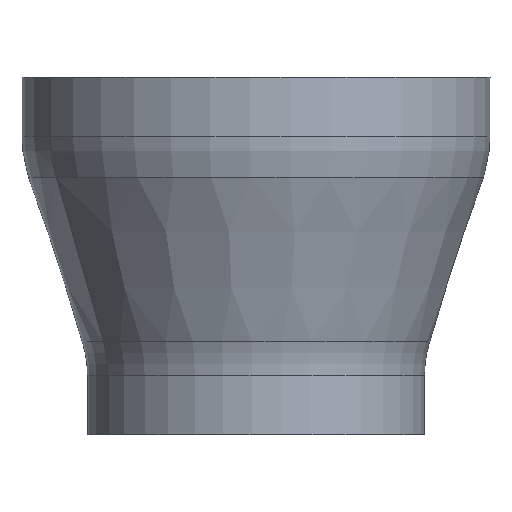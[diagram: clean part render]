
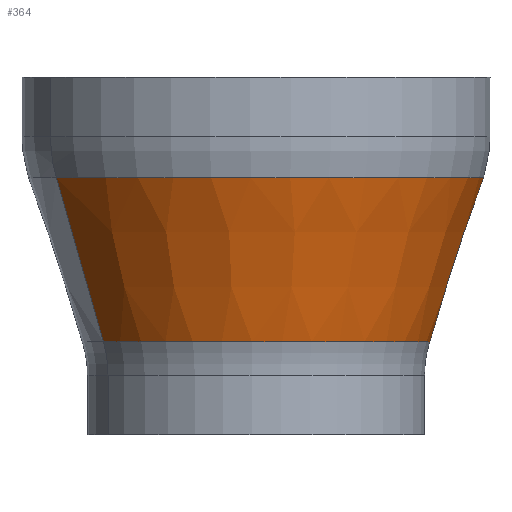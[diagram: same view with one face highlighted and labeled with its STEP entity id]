
A CAD part, left-side view. The second image highlights one B-rep face of the part: STEP entity #364.
In plain terms, the highlighted conical face has half-angle 18.116 degrees and reference radius 43.838 mm.
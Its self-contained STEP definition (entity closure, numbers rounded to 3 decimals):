
#167=CARTESIAN_POINT('Vertex',(1052.826,-586.642,325.634)) ;
#174=CARTESIAN_POINT('Vertex',(997.822,-485.958,325.634)) ;
#247=CARTESIAN_POINT('Axis2P3D Location',(1025.324,-536.3,325.634)) ;
#264=CARTESIAN_POINT('Line Origine',(75571.675,-136992.481,475432.367)) ;
#268=CARTESIAN_POINT('Vertex',(1046.341,-574.772,284.291)) ;
#275=CARTESIAN_POINT('Vertex',(1004.307,-497.828,284.291)) ;
#278=CARTESIAN_POINT('Line Origine',(-73521.027,135919.881,475432.367)) ;
#348=CARTESIAN_POINT('Axis2P3D Location',(1025.324,-536.3,284.291)) ;
#353=CARTESIAN_POINT('Axis2P3D Location',(1025.324,-536.3,284.291)) ;
#248=DIRECTION('Axis2P3D Direction',(0.,0.,-1.)) ;
#265=DIRECTION('Vector Direction',(0.149,-0.273,0.95)) ;
#279=DIRECTION('Vector Direction',(-0.149,0.273,0.95)) ;
#349=DIRECTION('Axis2P3D Direction',(0.,0.,1.)) ;
#350=DIRECTION('Axis2P3D XDirection',(-0.479,0.878,0.)) ;
#354=DIRECTION('Axis2P3D Direction',(0.,0.,1.)) ;
#249=AXIS2_PLACEMENT_3D('Circle Axis2P3D',#247,#248,$) ;
#351=AXIS2_PLACEMENT_3D('Cone Axis2P3D',#348,#349,#350) ;
#355=AXIS2_PLACEMENT_3D('Circle Axis2P3D',#353,#354,$) ;
#359=ORIENTED_EDGE('',*,*,#251,.F.) ;
#360=ORIENTED_EDGE('',*,*,#282,.T.) ;
#361=ORIENTED_EDGE('',*,*,#357,.T.) ;
#362=ORIENTED_EDGE('',*,*,#270,.F.) ;
#266=VECTOR('Line Direction',#265,1.) ;
#280=VECTOR('Line Direction',#279,1.) ;
#364=ADVANCED_FACE('\X2\6C1456CA\X0\',(#363),#352,.T.) ;
#250=CIRCLE('generated circle',#249,57.364) ;
#356=CIRCLE('generated circle',#355,43.838) ;
#352=CONICAL_SURFACE('Cone',#351,43.838,0.316) ;
#251=EDGE_CURVE('',#175,#168,#250,.F.) ;
#270=EDGE_CURVE('',#168,#269,#267,.F.) ;
#282=EDGE_CURVE('',#175,#276,#281,.F.) ;
#357=EDGE_CURVE('',#276,#269,#356,.T.) ;
#358=EDGE_LOOP('',(#359,#360,#361,#362)) ;
#363=FACE_OUTER_BOUND('',#358,.T.) ;
#267=LINE('Line',#264,#266) ;
#281=LINE('Line',#278,#280) ;
#168=VERTEX_POINT('',#167) ;
#175=VERTEX_POINT('',#174) ;
#269=VERTEX_POINT('',#268) ;
#276=VERTEX_POINT('',#275) ;
